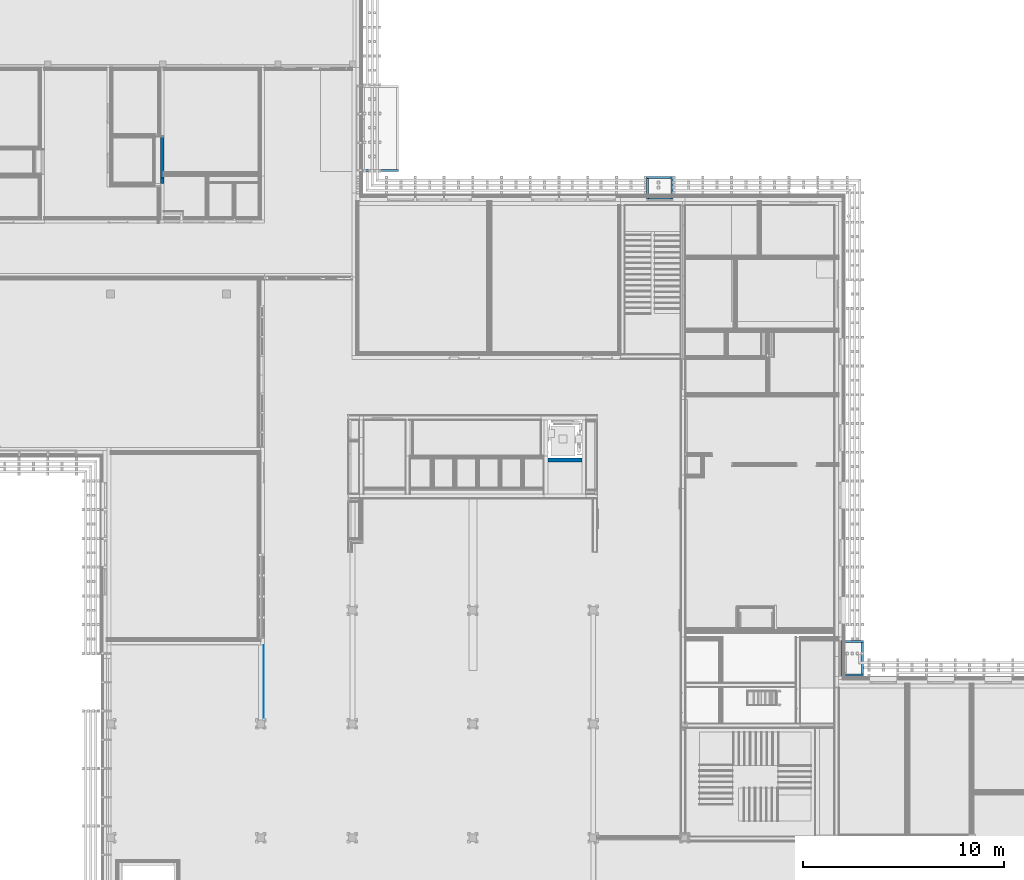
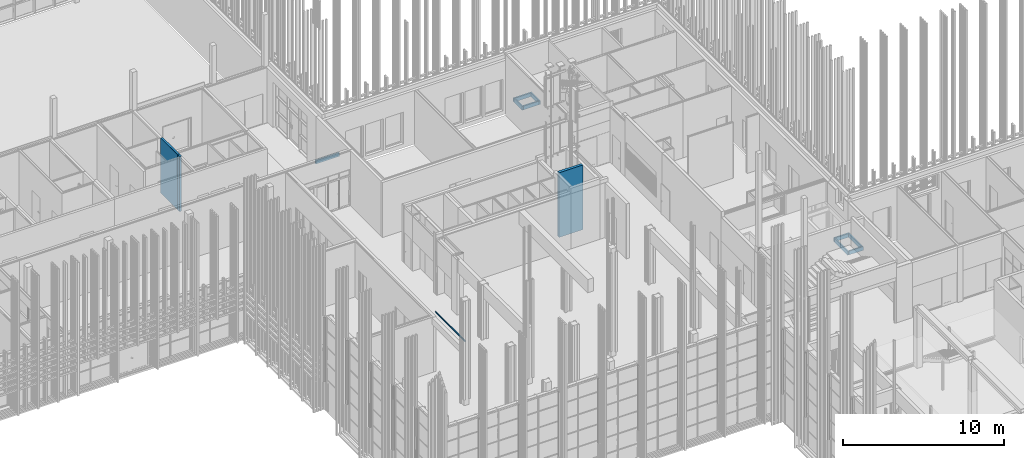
# One storey, part 110 of 260: 13 walls.
"""IFC2X3 building model written with IfcOpenShell, lengths in millimetres."""

from ifc_helpers import new_model, entity, si_unit, converted_unit, derived_unit, money_unit, direction, frame, origin_with_axes, place, context, subcontext, project, spatial, faceted_brep, material, type_object, element, save


model = new_model("IFC2X3")

# Units and contexts
model_context = context("Model", 3, precision=0.01, world=origin_with_axes(), true_north=direction((0.0, 1.0)))
body_context = subcontext(model_context, "Body", "Model", "MODEL_VIEW")
ifc_project = project(units=[si_unit("LENGTHUNIT", "METRE", prefix="MILLI"), si_unit("AREAUNIT", "SQUARE_METRE"), si_unit("VOLUMEUNIT", "CUBIC_METRE"), converted_unit("PLANEANGLEUNIT", "DEGREE", entity("IfcPlaneAngleMeasure", 0.0174532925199), si_unit("PLANEANGLEUNIT", "RADIAN"), dimensions=[0, 0, 0, 0, 0, 0, 0]), money_unit("EUR"), converted_unit("TIMEUNIT", "Year", entity("IfcTimeMeasure", 31556926.0), si_unit("TIMEUNIT", "SECOND"), dimensions=[0, 0, 1, 0, 0, 0, 0]), si_unit("MASSUNIT", "GRAM", prefix="KILO"), si_unit("THERMODYNAMICTEMPERATUREUNIT", "DEGREE_CELSIUS"), si_unit("LUMINOUSINTENSITYUNIT", "LUMEN"), si_unit("ENERGYUNIT", "JOULE", prefix="MEGA"), derived_unit("THERMALCONDUCTANCEUNIT", [(si_unit("POWERUNIT", "WATT"), 1), (si_unit("LENGTHUNIT", "METRE"), -1), (si_unit("THERMODYNAMICTEMPERATUREUNIT", "KELVIN"), -1)]), derived_unit("SPECIFICHEATCAPACITYUNIT", [(si_unit("ENERGYUNIT", "JOULE"), 1), (si_unit("MASSUNIT", "GRAM", prefix="KILO"), -1), (si_unit("THERMODYNAMICTEMPERATUREUNIT", "KELVIN"), -1)]), derived_unit("MASSDENSITYUNIT", [(si_unit("MASSUNIT", "GRAM", prefix="KILO"), 1), (si_unit("VOLUMEUNIT", "CUBIC_METRE"), -1)])], contexts=[model_context])

# Site, building, storey
site_placement = place(None, origin_with_axes())
site = spatial("IfcSite", under=ifc_project, at=site_placement, Name="Kolde pst 67a", CompositionType="ELEMENT")
building_placement = place(site_placement, origin_with_axes())
building = spatial("IfcBuilding", under=site, at=building_placement, Name="Riigigümnaasium", CompositionType="ELEMENT")
storey_placement = place(building_placement, origin_with_axes())
storey = spatial("IfcBuildingStorey", under=building, at=storey_placement, Name="1. korrus", CompositionType="ELEMENT", Elevation=0.0)

# Walls
ifc_material_1 = material(Name="_KANDETARIND - CLT ristkihtliimpuit vastavalt EK osale, CLT paigaldusvuugid teibitakse ROTHOBLAAS teibiga")
wall_type_1 = type_object("IfcWallType", Name="SS-CLT-16/7_viimistluseta 160", PredefinedType="NOTDEFINED")
wall_1_placement = place(storey_placement, frame((26869.99923, 61880.0174288, 0.0), z_axis=(0.0, 0.0, 1.0), x_axis=(0.0, -1.0, 0.0)))
element("IfcWall", 1, at=wall_1_placement, inside=storey, type_object=wall_type_1, material=ifc_material_1, Name="Sisesein", context=body_context, shape_type="Brep", body=[
    faceted_brep([(295.0, -160.0, 4190.0), (295.0, -140.0, 4190.0), (295.0, -140.0, 4170.0), (295.0, 0.0, 4170.0), (295.0, 0.0, 0.0), (295.0, -160.0, 0.0), (561.004163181, -160.0, 4190.0), (561.004163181, -140.0, 4190.0), (561.004163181, -140.0, 4170.0), (561.004163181, 0.0, 4170.0), (561.004163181, 0.0, 0.0), (561.004163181, -160.0, 0.0)], [[[0, 1, 2, 3, 4, 5]], [[6, 7, 1, 0]], [[8, 2, 1, 7]], [[8, 9, 3, 2]], [[4, 3, 9, 10]], [[5, 4, 10, 11]], [[0, 5, 11, 6]], [[9, 8, 7, 6, 11, 10]]]),
])
wall_2_placement = place(storey_placement, frame((26869.99923, 63662.0132656, 0.0), z_axis=(0.0, 0.0, 1.0), x_axis=(0.0, -1.0, 0.0)))
element("IfcWall", 2, at=wall_2_placement, inside=storey, type_object=wall_type_1, material=ifc_material_1, Name="Sisesein", context=body_context, shape_type="Brep", body=[
    faceted_brep([(0.0, -160.0, 0.0), (0.0, -160.0, 4170.0), (0.0, 0.0, 4170.0), (0.0, 0.0, 0.0), (1240.83031217, -160.0, 4190.0), (1240.83031217, -160.0, 4170.0), (2076.99583682, -160.0, 0.0), (2076.99583682, -160.0, 4190.0), (2076.99583682, -140.0, 4170.0), (2076.99583682, 0.0, 4170.0), (1240.83031217, -140.0, 4170.0), (2076.99583682, 0.0, 0.0), (1240.83031217, -140.0, 4190.0), (2076.99583682, -140.0, 4190.0)], [[[0, 1, 2, 3]], [[4, 5, 1, 0, 6, 7]], [[8, 9, 2, 1, 5, 10]], [[3, 2, 9, 11]], [[6, 0, 3, 11]], [[5, 4, 12, 10]], [[9, 8, 13, 7, 6, 11]], [[13, 12, 4, 7]], [[10, 12, 13, 8]]]),
])
ifc_material_2 = material(Name="_KANDETARIND - kergplokk Fibo3 200mm")
wall_type_2 = type_object("IfcWallType", Name="SS-KP-20/3_plokksein viimistluseta 200", PredefinedType="NOTDEFINED")
wall_3_placement = place(storey_placement, frame((45974.9854607, 47669.9999599, -300.2), z_axis=(0.0, 0.0, 1.0), x_axis=(1.0, 0.0, 0.0)))
element("IfcWall", 3, at=wall_3_placement, inside=storey, type_object=wall_type_2, material=ifc_material_2, Name="Sisesein", context=body_context, shape_type="Brep", body=[
    faceted_brep([(0.0, -200.0, 4900.2), (1700.00000022, -200.0, 4900.2), (1700.00000022, 0.0, 4900.2), (0.0, 0.0, 4900.2), (0.0, -200.0, 0.0), (1700.00000022, -200.0, 0.0), (1700.00000022, 0.0, 0.0), (0.0, 0.0, 0.0)], [[[0, 1, 2, 3]], [[4, 5, 1, 0]], [[2, 1, 5, 6]], [[3, 2, 6, 7]], [[4, 0, 3, 7]], [[7, 6, 5, 4]]]),
])
ifc_material_3 = material(Name="Puit")
wall_type_3 = type_object("IfcWallType", Name="Puit 20", PredefinedType="NOTDEFINED")
wall_4_placement = place(storey_placement, frame((31849.99923, 38350.019959, 4450.0), z_axis=(0.0, 0.0, 1.0), x_axis=(0.0, -1.0, 0.0)))
element("IfcWall", 4, at=wall_4_placement, inside=storey, type_object=wall_type_3, material=ifc_material_3, Name="ASTMESTIK", context=body_context, shape_type="Brep", body=[
    faceted_brep([(3660.01998758, 0.0, 133.3), (3660.01998758, 0.0, 20.0), (0.0, 0.0, 20.0), (0.0, 0.0, 133.3), (3660.01998758, -20.0, 133.3), (3660.01998758, -20.0, 20.0), (0.0, -20.0, 20.0), (0.0, -20.0, 133.3)], [[[0, 1, 2, 3]], [[4, 5, 1, 0]], [[5, 6, 2, 1]], [[3, 2, 6, 7]], [[3, 7, 4, 0]], [[7, 6, 5, 4]]]),
])
ifc_material_4 = material(Name="_KANDETARIND - monoliitne raudbetoon vastavalt EK osale")
wall_type_4 = type_object("IfcWallType", Name="_KANDETARIND - monoliitne raudbetoon vastavalt EK osale 100", PredefinedType="NOTDEFINED")
wall_5_placement = place(storey_placement, frame((36752.0222901, 61917.8736371, -302.0), z_axis=(0.0, 0.0, 1.0), x_axis=(0.999999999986, 5.37580939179e-06, 0.0)))
element("IfcWall", 5, at=wall_5_placement, inside=storey, type_object=wall_type_4, material=ifc_material_4, Name="Porivann, monoliitne raudbetoon vastavalt EK osale", context=body_context, shape_type="Brep", body=[
    faceted_brep([(1799.99999997, 99.9903235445, 0.0), (1799.99999997, -0.00967645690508, 0.0), (100.0, -0.000537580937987, 0.0), (100.0, 99.9994624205, 0.0), (1799.99999997, 99.9903235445, 280.0), (1799.99999997, -0.00967645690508, 280.0), (100.0, -0.000537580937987, 280.0), (100.0, 99.9994624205, 280.0)], [[[0, 1, 2, 3]], [[1, 0, 4, 5]], [[1, 5, 6, 2]], [[7, 3, 2, 6]], [[4, 0, 3, 7]], [[5, 4, 7, 6]]]),
])
wall_6_placement = place(storey_placement, frame((61671.290636, 38599.9810021, -302.0), z_axis=(0.0, 0.0, 1.0), x_axis=(-0.999999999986, -5.37580937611e-06, 0.0)))
element("IfcWall", 6, at=wall_6_placement, inside=storey, type_object=wall_type_4, material=ifc_material_4, Name="Porivann, monoliitne raudbetoon vastavalt EK osale", context=body_context, shape_type="Brep", body=[
    faceted_brep([(1119.96387602, 100.0, 0.0), (1119.96387602, 0.0, 0.0), (0.0, 0.0, 0.0), (0.0, 100.0, 0.0), (1119.96387602, 100.0, 280.0), (1119.96387602, 0.0, 280.0), (0.0, 0.0, 280.0), (0.0, 100.0, 280.0)], [[[0, 1, 2, 3]], [[1, 0, 4, 5]], [[1, 5, 6, 2]], [[7, 3, 2, 6]], [[4, 0, 3, 7]], [[5, 4, 7, 6]]]),
])
wall_7_placement = place(storey_placement, frame((60551.32676, 38599.9749814, -302.0), z_axis=(0.0, 0.0, 1.0), x_axis=(5.37580938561e-06, -0.999999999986, 0.0)))
element("IfcWall", 7, at=wall_7_placement, inside=storey, type_object=wall_type_4, material=ifc_material_4, Name="Porivann, monoliitne raudbetoon vastavalt EK osale", context=body_context, shape_type="Brep", body=[
    faceted_brep([(1784.8048439, 100.0, 0.0), (1784.8048439, 0.0, 0.0), (100.0, 0.0, 0.0), (100.0, 100.0, 0.0), (1784.8048439, 100.0, 280.0), (1784.8048439, 0.0, 280.0), (100.0, 0.0, 280.0), (100.0, 100.0, 280.0)], [[[0, 1, 2, 3]], [[1, 0, 4, 5]], [[1, 5, 6, 2]], [[7, 3, 2, 6]], [[4, 0, 3, 7]], [[5, 4, 7, 6]]]),
])
wall_8_placement = place(storey_placement, frame((60551.3363548, 36815.1701375, -302.0), z_axis=(0.0, 0.0, 1.0), x_axis=(0.999999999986, 5.3758093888e-06, 0.0)))
element("IfcWall", 8, at=wall_8_placement, inside=storey, type_object=wall_type_4, material=ifc_material_4, Name="Porivann, monoliitne raudbetoon vastavalt EK osale", context=body_context, shape_type="Brep", body=[
    faceted_brep([(1119.96387602, 99.9939792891, 0.0), (1119.96387602, -0.00602071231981, 0.0), (100.0, -0.000537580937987, 0.0), (100.0, 99.9994624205, 0.0), (1119.96387602, 99.9939792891, 280.0), (1119.96387602, -0.00602071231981, 280.0), (100.0, -0.000537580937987, 280.0), (100.0, 99.9994624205, 280.0)], [[[0, 1, 2, 3]], [[1, 0, 4, 5]], [[1, 5, 6, 2]], [[7, 3, 2, 6]], [[4, 0, 3, 7]], [[5, 4, 7, 6]]]),
])
wall_9_placement = place(storey_placement, frame((61671.3002308, 36815.1761583, -302.0), z_axis=(0.0, 0.0, 1.0), x_axis=(-5.37580937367e-06, 0.999999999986, 0.0)))
element("IfcWall", 9, at=wall_9_placement, inside=storey, type_object=wall_type_4, material=ifc_material_4, Name="Porivann, monoliitne raudbetoon vastavalt EK osale", context=body_context, shape_type="Brep", body=[
    faceted_brep([(1684.8048439, 100.0, 0.0), (1684.8048439, 0.0, 0.0), (100.0, 0.0, 0.0), (100.0, 100.0, 0.0), (1684.8048439, 100.0, 280.0), (1684.8048439, 0.0, 280.0), (100.0, 0.0, 280.0), (100.0, 100.0, 280.0)], [[[0, 1, 2, 3]], [[1, 0, 4, 5]], [[1, 5, 6, 2]], [[7, 3, 2, 6]], [[4, 0, 3, 7]], [[5, 4, 7, 6]]]),
])
wall_10_placement = place(storey_placement, frame((52192.5035828, 60555.0325456, -302.0), z_axis=(0.0, 0.0, 1.0), x_axis=(-1.07516187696e-05, 0.999999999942, 0.0)))
element("IfcWall", 10, at=wall_10_placement, inside=storey, type_object=wall_type_4, material=ifc_material_4, Name="Porivann, monoliitne raudbetoon vastavalt EK osale", context=body_context, shape_type="Brep", body=[
    faceted_brep([(1119.96689306, 100.0, 0.0), (1119.96689306, 0.0, 0.0), (0.0, 0.0, 0.0), (0.0, 100.0, 0.0), (1119.96689306, 100.0, 280.0), (1119.96689306, 0.0, 280.0), (0.0, 0.0, 280.0), (0.0, 100.0, 280.0)], [[[0, 1, 2, 3]], [[1, 0, 4, 5]], [[1, 5, 6, 2]], [[7, 3, 2, 6]], [[4, 0, 3, 7]], [[5, 4, 7, 6]]]),
])
wall_11_placement = place(storey_placement, frame((52192.4915414, 61674.9994386, -302.0), z_axis=(0.0, 0.0, 1.0), x_axis=(-0.999999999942, -1.07516187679e-05, 0.0)))
element("IfcWall", 11, at=wall_11_placement, inside=storey, type_object=wall_type_4, material=ifc_material_4, Name="Porivann, monoliitne raudbetoon vastavalt EK osale", context=body_context, shape_type="Brep", body=[
    faceted_brep([(1310.0000002, 100.0, 0.0), (1310.0000002, 0.0, 0.0), (100.0, 0.0, 0.0), (100.0, 100.0, 0.0), (1310.0000002, 100.0, 280.0), (1310.0000002, 0.0, 280.0), (100.0, 0.0, 280.0), (100.0, 100.0, 280.0)], [[[0, 1, 2, 3]], [[1, 0, 4, 5]], [[1, 5, 6, 2]], [[7, 3, 2, 6]], [[4, 0, 3, 7]], [[5, 4, 7, 6]]]),
])
wall_12_placement = place(storey_placement, frame((50882.4915412, 61674.985354, -302.0), z_axis=(0.0, 0.0, 1.0), x_axis=(1.07516187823e-05, -0.999999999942, 0.0)))
element("IfcWall", 12, at=wall_12_placement, inside=storey, type_object=wall_type_4, material=ifc_material_4, Name="Porivann, monoliitne raudbetoon vastavalt EK osale", context=body_context, shape_type="Brep", body=[
    faceted_brep([(1119.96689306, 100.0, 0.0), (1119.96689306, 0.0, 0.0), (100.0, 0.0, 0.0), (100.0, 100.0, 0.0), (1119.96689306, 100.0, 280.0), (1119.96689306, 0.0, 280.0), (100.0, 0.0, 280.0), (100.0, 100.0, 280.0)], [[[0, 1, 2, 3]], [[1, 0, 4, 5]], [[1, 5, 6, 2]], [[7, 3, 2, 6]], [[4, 0, 3, 7]], [[5, 4, 7, 6]]]),
])
wall_13_placement = place(storey_placement, frame((50882.5035827, 60555.018461, -302.0), z_axis=(0.0, 0.0, 1.0), x_axis=(0.999999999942, 1.07516187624e-05, 0.0)))
element("IfcWall", 13, at=wall_13_placement, inside=storey, type_object=wall_type_4, material=ifc_material_4, Name="Porivann, monoliitne raudbetoon vastavalt EK osale", context=body_context, shape_type="Brep", body=[
    faceted_brep([(1210.0000002, 100.0, 0.0), (1210.0000002, 0.0, 0.0), (100.0, 0.0, 0.0), (100.0, 100.0, 0.0), (1210.0000002, 100.0, 280.0), (1210.0000002, 0.0, 280.0), (100.0, 0.0, 280.0), (100.0, 100.0, 280.0)], [[[0, 1, 2, 3]], [[1, 0, 4, 5]], [[1, 5, 6, 2]], [[7, 3, 2, 6]], [[4, 0, 3, 7]], [[5, 4, 7, 6]]]),
])

save(model, "model.ifc")
